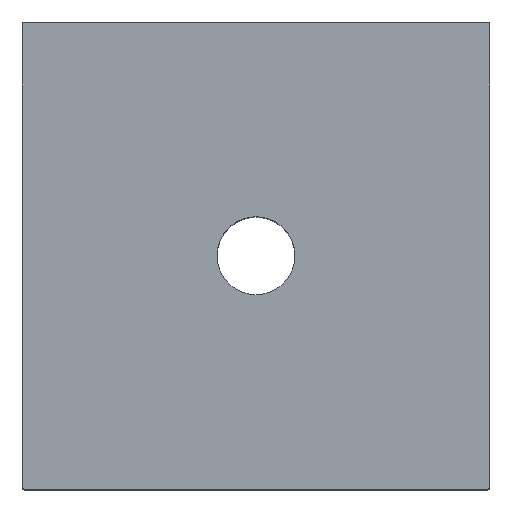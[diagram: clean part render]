
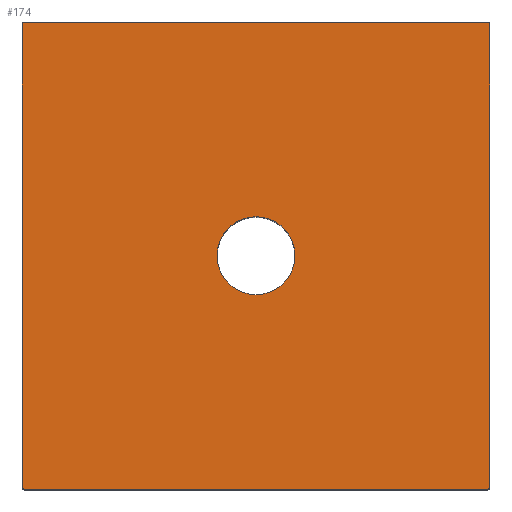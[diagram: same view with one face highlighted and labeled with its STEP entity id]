
A CAD part, top view. The second image highlights one B-rep face of the part: STEP entity #174.
In plain terms, the highlighted planar face has unit normal (0, 0, 1).
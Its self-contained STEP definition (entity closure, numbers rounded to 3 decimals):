
#174=ADVANCED_FACE('',(#213,#214),#202,.T.);
#202=PLANE('',#625);
#213=FACE_BOUND('',#217,.T.);
#214=FACE_BOUND('',#218,.T.);
#217=EDGE_LOOP('',(#323,#324,#325,#326,#327,#328,#329,#330));
#218=EDGE_LOOP('',(#331,#332));
#249=LINE('',#781,#283);
#250=LINE('',#785,#284);
#251=LINE('',#789,#285);
#252=LINE('',#793,#286);
#283=VECTOR('',#670,1.);
#284=VECTOR('',#673,1.);
#285=VECTOR('',#676,1.);
#286=VECTOR('',#679,1.);
#323=ORIENTED_EDGE('',*,*,#531,.T.);
#324=ORIENTED_EDGE('',*,*,#532,.T.);
#325=ORIENTED_EDGE('',*,*,#533,.T.);
#326=ORIENTED_EDGE('',*,*,#534,.T.);
#327=ORIENTED_EDGE('',*,*,#535,.T.);
#328=ORIENTED_EDGE('',*,*,#536,.T.);
#329=ORIENTED_EDGE('',*,*,#537,.T.);
#330=ORIENTED_EDGE('',*,*,#538,.T.);
#331=ORIENTED_EDGE('',*,*,#539,.T.);
#332=ORIENTED_EDGE('',*,*,#540,.T.);
#479=VERTEX_POINT('',#779);
#480=VERTEX_POINT('',#780);
#481=VERTEX_POINT('',#782);
#482=VERTEX_POINT('',#784);
#483=VERTEX_POINT('',#786);
#484=VERTEX_POINT('',#788);
#485=VERTEX_POINT('',#790);
#486=VERTEX_POINT('',#792);
#487=VERTEX_POINT('',#795);
#488=VERTEX_POINT('',#796);
#531=EDGE_CURVE('',#479,#480,#605,.T.);
#532=EDGE_CURVE('',#480,#481,#249,.T.);
#533=EDGE_CURVE('',#481,#482,#606,.T.);
#534=EDGE_CURVE('',#482,#483,#250,.T.);
#535=EDGE_CURVE('',#483,#484,#607,.T.);
#536=EDGE_CURVE('',#484,#485,#251,.T.);
#537=EDGE_CURVE('',#485,#486,#608,.T.);
#538=EDGE_CURVE('',#486,#479,#252,.T.);
#539=EDGE_CURVE('',#487,#488,#609,.T.);
#540=EDGE_CURVE('',#488,#487,#610,.T.);
#605=CIRCLE('',#619,0.5);
#606=CIRCLE('',#620,0.5);
#607=CIRCLE('',#621,0.5);
#608=CIRCLE('',#622,0.5);
#609=CIRCLE('',#623,10.);
#610=CIRCLE('',#624,10.);
#619=AXIS2_PLACEMENT_3D('',#778,#668,#669);
#620=AXIS2_PLACEMENT_3D('',#783,#671,#672);
#621=AXIS2_PLACEMENT_3D('',#787,#674,#675);
#622=AXIS2_PLACEMENT_3D('',#791,#677,#678);
#623=AXIS2_PLACEMENT_3D('',#794,#680,#681);
#624=AXIS2_PLACEMENT_3D('',#797,#682,#683);
#625=AXIS2_PLACEMENT_3D('',#798,#684,#685);
#668=DIRECTION('',(0.,0.,1.));
#669=DIRECTION('',(-0.707,0.707,0.));
#670=DIRECTION('',(0.,1.,0.));
#671=DIRECTION('',(0.,0.,1.));
#672=DIRECTION('',(-0.707,-0.707,0.));
#673=DIRECTION('',(-1.,0.,0.));
#674=DIRECTION('',(0.,0.,1.));
#675=DIRECTION('',(0.707,-0.707,0.));
#676=DIRECTION('',(0.,-1.,0.));
#677=DIRECTION('',(0.,0.,1.));
#678=DIRECTION('',(0.707,0.707,0.));
#679=DIRECTION('',(1.,0.,0.));
#680=DIRECTION('',(0.,0.,-1.));
#681=DIRECTION('',(-1.,0.,0.));
#682=DIRECTION('',(0.,0.,-1.));
#683=DIRECTION('',(1.,0.,0.));
#684=DIRECTION('',(0.,0.,1.));
#685=DIRECTION('',(-1.,0.,0.));
#778=CARTESIAN_POINT('',(59.5,-59.5,103.));
#779=CARTESIAN_POINT('',(59.5,-60.,103.));
#780=CARTESIAN_POINT('',(60.,-59.5,103.));
#781=CARTESIAN_POINT('',(60.,-59.5,103.));
#782=CARTESIAN_POINT('',(60.,59.5,103.));
#783=CARTESIAN_POINT('',(59.5,59.5,103.));
#784=CARTESIAN_POINT('',(59.5,60.,103.));
#785=CARTESIAN_POINT('',(-59.5,60.,103.));
#786=CARTESIAN_POINT('',(-59.5,60.,103.));
#787=CARTESIAN_POINT('',(-59.5,59.5,103.));
#788=CARTESIAN_POINT('',(-60.,59.5,103.));
#789=CARTESIAN_POINT('',(-60.,-59.5,103.));
#790=CARTESIAN_POINT('',(-60.,-59.5,103.));
#791=CARTESIAN_POINT('',(-59.5,-59.5,103.));
#792=CARTESIAN_POINT('',(-59.5,-60.,103.));
#793=CARTESIAN_POINT('',(-59.5,-60.,103.));
#794=CARTESIAN_POINT('',(0.,0.,103.));
#795=CARTESIAN_POINT('',(0.,10.,103.));
#796=CARTESIAN_POINT('',(0.,-10.,103.));
#797=CARTESIAN_POINT('',(0.,0.,103.));
#798=CARTESIAN_POINT('',(59.5,-60.,103.));
